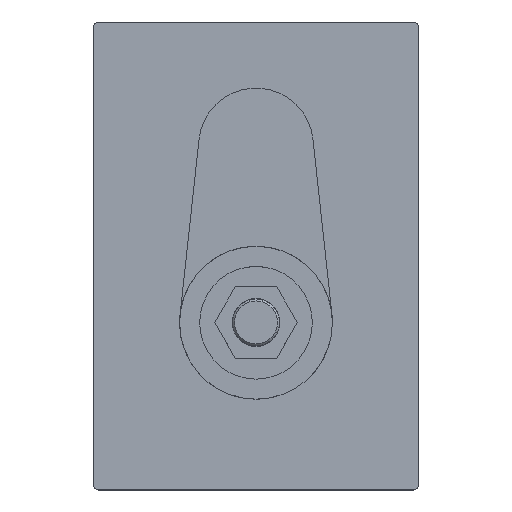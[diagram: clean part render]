
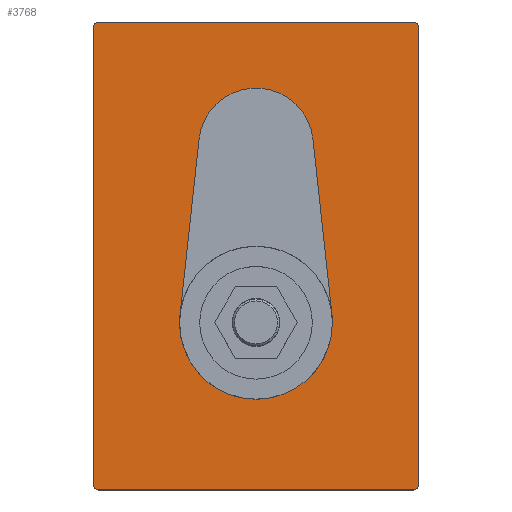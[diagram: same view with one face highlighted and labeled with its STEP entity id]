
A CAD part, top view. The second image highlights one B-rep face of the part: STEP entity #3768.
In plain terms, the highlighted planar face has unit normal (0, 0, 1).
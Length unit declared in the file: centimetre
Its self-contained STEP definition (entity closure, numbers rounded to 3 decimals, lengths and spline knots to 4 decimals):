
#981=VECTOR('',#5197,1.);
#986=VECTOR('',#5217,1.);
#1033=VECTOR('',#5505,1.);
#1038=VECTOR('',#5517,1.);
#1039=VECTOR('',#5526,1.);
#1040=VECTOR('',#5528,1.);
#1183=LINE('',#4348,#981);
#1188=LINE('',#4368,#986);
#1235=LINE('',#4643,#1033);
#1240=LINE('',#4657,#1038);
#1241=LINE('',#4663,#1039);
#1242=LINE('',#4665,#1040);
#1418=PLANE('',#4060);
#1572=VERTEX_POINT('',#4292);
#1573=VERTEX_POINT('',#4293);
#1601=VERTEX_POINT('',#4349);
#1602=VERTEX_POINT('',#4353);
#1603=VERTEX_POINT('',#4357);
#1604=VERTEX_POINT('',#4358);
#1608=VERTEX_POINT('',#4369);
#1609=VERTEX_POINT('',#4373);
#1691=VERTEX_POINT('',#4642);
#1692=VERTEX_POINT('',#4644);
#1694=VERTEX_POINT('',#4650);
#1696=VERTEX_POINT('',#4656);
#1836=CIRCLE('',#3880,0.127);
#1852=CIRCLE('',#3899,0.127);
#1853=CIRCLE('',#3901,0.127);
#1857=CIRCLE('',#3907,0.127);
#1918=CIRCLE('',#4052,2.032);
#1920=CIRCLE('',#4056,1.524);
#2004=EDGE_CURVE('',#1572,#1573,#1836,.T.);
#2034=EDGE_CURVE('',#1573,#1601,#1183,.T.);
#2036=EDGE_CURVE('',#1601,#1602,#1852,.T.);
#2038=EDGE_CURVE('',#1603,#1604,#1853,.T.);
#2044=EDGE_CURVE('',#1604,#1608,#1188,.T.);
#2046=EDGE_CURVE('',#1608,#1609,#1857,.T.);
#2151=EDGE_CURVE('',#1692,#1691,#1235,.T.);
#2155=EDGE_CURVE('',#1691,#1694,#1918,.T.);
#2158=EDGE_CURVE('',#1694,#1696,#1240,.T.);
#2160=EDGE_CURVE('',#1696,#1692,#1920,.T.);
#2161=EDGE_CURVE('',#1602,#1603,#1241,.T.);
#2162=EDGE_CURVE('',#1609,#1572,#1242,.T.);
#2697=ORIENTED_EDGE('',*,*,#2004,.F.);
#2698=ORIENTED_EDGE('',*,*,#2162,.F.);
#2699=ORIENTED_EDGE('',*,*,#2046,.F.);
#2700=ORIENTED_EDGE('',*,*,#2044,.F.);
#2701=ORIENTED_EDGE('',*,*,#2038,.F.);
#2702=ORIENTED_EDGE('',*,*,#2161,.F.);
#2703=ORIENTED_EDGE('',*,*,#2036,.F.);
#2704=ORIENTED_EDGE('',*,*,#2034,.F.);
#2705=ORIENTED_EDGE('',*,*,#2151,.T.);
#2706=ORIENTED_EDGE('',*,*,#2155,.T.);
#2707=ORIENTED_EDGE('',*,*,#2158,.T.);
#2708=ORIENTED_EDGE('',*,*,#2160,.T.);
#3227=EDGE_LOOP('',(#2697,#2698,#2699,#2700,#2701,#2702,#2703,#2704));
#3228=EDGE_LOOP('',(#2705,#2706,#2707,#2708));
#3529=FACE_BOUND('',#3227,.T.);
#3530=FACE_BOUND('',#3228,.T.);
#3768=ADVANCED_FACE('',(#3529,#3530),#1418,.T.);
#3880=AXIS2_PLACEMENT_3D('',#4291,#5153,#5154);
#3899=AXIS2_PLACEMENT_3D('',#4352,#5201,#5202);
#3901=AXIS2_PLACEMENT_3D('',#4356,#5206,#5207);
#3907=AXIS2_PLACEMENT_3D('',#4372,#5221,#5222);
#4052=AXIS2_PLACEMENT_3D('',#4651,#5512,#5513);
#4056=AXIS2_PLACEMENT_3D('',#4660,#5522,#5523);
#4060=AXIS2_PLACEMENT_3D('',#4666,#5529,$);
#4291=CARTESIAN_POINT('',(-4.191,-4.318,1.3716));
#4292=CARTESIAN_POINT('',(-4.191,-4.445,1.3716));
#4293=CARTESIAN_POINT('',(-4.318,-4.318,1.3716));
#4348=CARTESIAN_POINT('',(-4.318,8.001,1.3716));
#4349=CARTESIAN_POINT('',(-4.318,7.874,1.3716));
#4352=CARTESIAN_POINT('',(-4.191,7.874,1.3716));
#4353=CARTESIAN_POINT('',(-4.191,8.001,1.3716));
#4356=CARTESIAN_POINT('',(4.191,7.874,1.3716));
#4357=CARTESIAN_POINT('',(4.191,8.001,1.3716));
#4358=CARTESIAN_POINT('',(4.318,7.874,1.3716));
#4368=CARTESIAN_POINT('',(4.318,-4.445,1.3716));
#4369=CARTESIAN_POINT('',(4.318,-4.318,1.3716));
#4372=CARTESIAN_POINT('',(4.191,-4.318,1.3716));
#4373=CARTESIAN_POINT('',(4.191,-4.445,1.3716));
#4642=CARTESIAN_POINT('',(2.0202,0.2187,1.3716));
#4643=CARTESIAN_POINT('',(1.7988,2.2636,1.3716));
#4644=CARTESIAN_POINT('',(1.5151,4.8834,1.3716));
#4650=CARTESIAN_POINT('',(-2.0202,0.2187,1.3716));
#4651=CARTESIAN_POINT('',(0.,0.,1.3716));
#4656=CARTESIAN_POINT('',(-1.5151,4.8834,1.3716));
#4657=CARTESIAN_POINT('',(-1.7988,2.2636,1.3716));
#4660=CARTESIAN_POINT('',(0.,4.7193,1.3716));
#4663=CARTESIAN_POINT('',(4.318,8.001,1.3716));
#4665=CARTESIAN_POINT('',(-4.318,-4.445,1.3716));
#4666=CARTESIAN_POINT('',(0.,1.778,1.3716));
#5153=DIRECTION('',(0.,0.,-1.));
#5154=DIRECTION('',(-0.09,-0.09,0.));
#5197=DIRECTION('',(0.,1.,0.));
#5201=DIRECTION('',(0.,0.,-1.));
#5202=DIRECTION('',(-0.09,0.09,0.));
#5206=DIRECTION('',(0.,0.,-1.));
#5207=DIRECTION('',(0.09,0.09,0.));
#5217=DIRECTION('',(0.,-1.,0.));
#5221=DIRECTION('',(0.,0.,-1.));
#5222=DIRECTION('',(0.09,-0.09,0.));
#5505=DIRECTION('',(0.108,-0.994,0.));
#5512=DIRECTION('',(0.,0.,-1.));
#5513=DIRECTION('',(2.032,0.,0.));
#5517=DIRECTION('',(0.108,0.994,0.));
#5522=DIRECTION('',(0.,0.,-1.));
#5523=DIRECTION('',(1.524,0.,0.));
#5526=DIRECTION('',(1.,0.,0.));
#5528=DIRECTION('',(-1.,0.,0.));
#5529=DIRECTION('',(0.,0.,1.));
